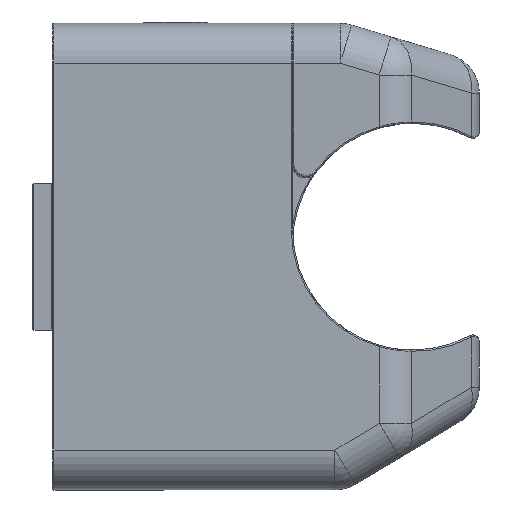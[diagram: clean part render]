
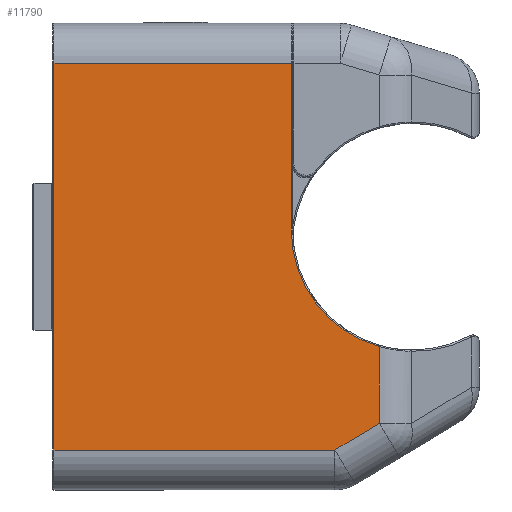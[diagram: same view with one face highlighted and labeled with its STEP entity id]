
A CAD part, left-side view. The second image highlights one B-rep face of the part: STEP entity #11790.
In plain terms, the highlighted planar face has unit normal (-1, 0, 0).
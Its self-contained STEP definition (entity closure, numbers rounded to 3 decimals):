
#11490=CARTESIAN_POINT('',(-35.,-70.11,-3.));
#11491=VERTEX_POINT('',#11490);
#11500=CARTESIAN_POINT('',(-35.,-70.11,-32.0));
#11501=VERTEX_POINT('',#11500);
#11509=CARTESIAN_POINT('',(-35.,-70.11,-32.0));
#11510=DIRECTION('',(0.0,0.0,1.0));
#11511=VECTOR('',#11510,29.0);
#11512=LINE('',#11509,#11511);
#11513=EDGE_CURVE('',#11501,#11491,#11512,.T.);
#11723=CARTESIAN_POINT('',(-35.,-87.91,-3.));
#11724=VERTEX_POINT('',#11723);
#11725=CARTESIAN_POINT('',(-35.,-70.11,-3.));
#11726=DIRECTION('',(0.0,-1.0,0.0));
#11727=VECTOR('',#11726,17.8);
#11728=LINE('',#11725,#11727);
#11729=EDGE_CURVE('',#11491,#11724,#11728,.T.);
#11742=CARTESIAN_POINT('',(-35.,-83.534,-19.867));
#11743=DIRECTION('',(1.0,0.0,0.0));
#11744=DIRECTION('',(0.0,0.0,-1.0));
#11745=AXIS2_PLACEMENT_3D('',#11742,#11743,#11744);
#11746=PLANE('',#11745);
#11747=ORIENTED_EDGE('',*,*,#11513,.F.);
#11748=CARTESIAN_POINT('',(-35.,-91.179,-32.));
#11749=VERTEX_POINT('',#11748);
#11750=CARTESIAN_POINT('',(-35.,-91.179,-32.));
#11751=DIRECTION('',(0.0,1.0,0.0));
#11752=VECTOR('',#11751,21.069);
#11753=LINE('',#11750,#11752);
#11754=EDGE_CURVE('',#11749,#11501,#11753,.T.);
#11755=ORIENTED_EDGE('',*,*,#11754,.F.);
#11756=CARTESIAN_POINT('',(-35.,-94.51,-30.001));
#11757=VERTEX_POINT('',#11756);
#11758=CARTESIAN_POINT('',(-35.,-94.51,-30.001));
#11759=DIRECTION('',(0.0,0.857,-0.514));
#11760=VECTOR('',#11759,3.885);
#11761=LINE('',#11758,#11760);
#11762=EDGE_CURVE('',#11757,#11749,#11761,.T.);
#11763=ORIENTED_EDGE('',*,*,#11762,.F.);
#11764=CARTESIAN_POINT('',(-35.,-94.51,-24.25));
#11765=VERTEX_POINT('',#11764);
#11766=CARTESIAN_POINT('',(-35.,-94.51,-24.25));
#11767=DIRECTION('',(0.0,0.0,-1.0));
#11768=VECTOR('',#11767,5.752);
#11769=LINE('',#11766,#11768);
#11770=EDGE_CURVE('',#11765,#11757,#11769,.T.);
#11771=ORIENTED_EDGE('',*,*,#11770,.F.);
#11772=CARTESIAN_POINT('',(-35.,-87.91,-15.5));
#11773=VERTEX_POINT('',#11772);
#11774=CARTESIAN_POINT('',(-35.,-97.01,-15.5));
#11775=DIRECTION('',(-1.,0.,0.));
#11776=DIRECTION('',(0.,0.799,-0.601));
#11777=AXIS2_PLACEMENT_3D('',#11774,#11775,#11776);
#11778=CIRCLE('',#11777,9.1);
#11779=EDGE_CURVE('',#11773,#11765,#11778,.T.);
#11780=ORIENTED_EDGE('',*,*,#11779,.F.);
#11781=CARTESIAN_POINT('',(-35.,-87.91,-3.));
#11782=DIRECTION('',(0.0,0.0,-1.0));
#11783=VECTOR('',#11782,12.5);
#11784=LINE('',#11781,#11783);
#11785=EDGE_CURVE('',#11724,#11773,#11784,.T.);
#11786=ORIENTED_EDGE('',*,*,#11785,.F.);
#11787=ORIENTED_EDGE('',*,*,#11729,.F.);
#11788=EDGE_LOOP('',(#11747,#11755,#11763,#11771,#11780,#11786,#11787));
#11789=FACE_OUTER_BOUND('',#11788,.T.);
#11790=ADVANCED_FACE('',(#11789),#11746,.F.);
